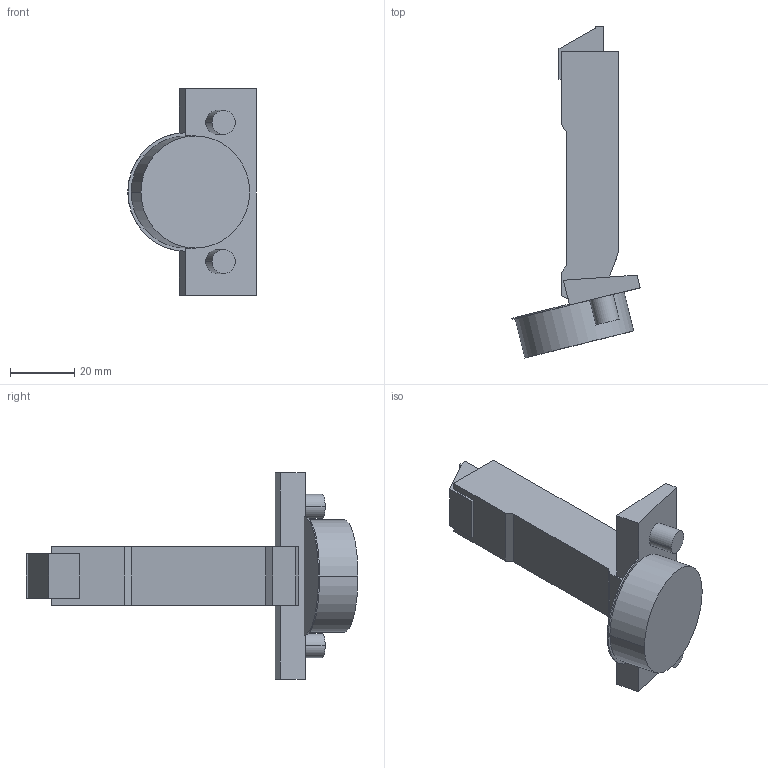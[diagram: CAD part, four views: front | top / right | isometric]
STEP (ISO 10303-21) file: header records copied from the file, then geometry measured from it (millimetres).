
FILE_DESCRIPTION (( 'STEP AP214' ), '1' );
FILE_NAME ('Scharnier TS Impresso 120°_-15° GB_BB, aufliegend.step', '2010-12-13T09:58:14', ( 'grass' ), ( '' ), 'SwSTEP 2.0', 'SolidWorks 2010', '' );
FILE_SCHEMA (( 'AUTOMOTIVE_DESIGN' ));
Length unit declared in the file: millimetre
Products named in the file (1): Scharnier TS Impresso 120°_-15° GB_BB, aufliegend
Bounding box: 40.12 x 103.72 x 64.5 mm (x, y, z)
Volume: 44422.8 mm3; surface area: 12450.8 mm2
Topology: 1 solids, 3 shells, 56 faces, 132 edges, 88 vertices
Faces by surface type: plane 39, cylinder 17
Entity records: 1640 total; most frequent: DIRECTION 280, CARTESIAN_POINT 277, ORIENTED_EDGE 264, EDGE_CURVE 132, VECTOR 98, LINE 98, AXIS2_PLACEMENT_3D 91, VERTEX_POINT 88
